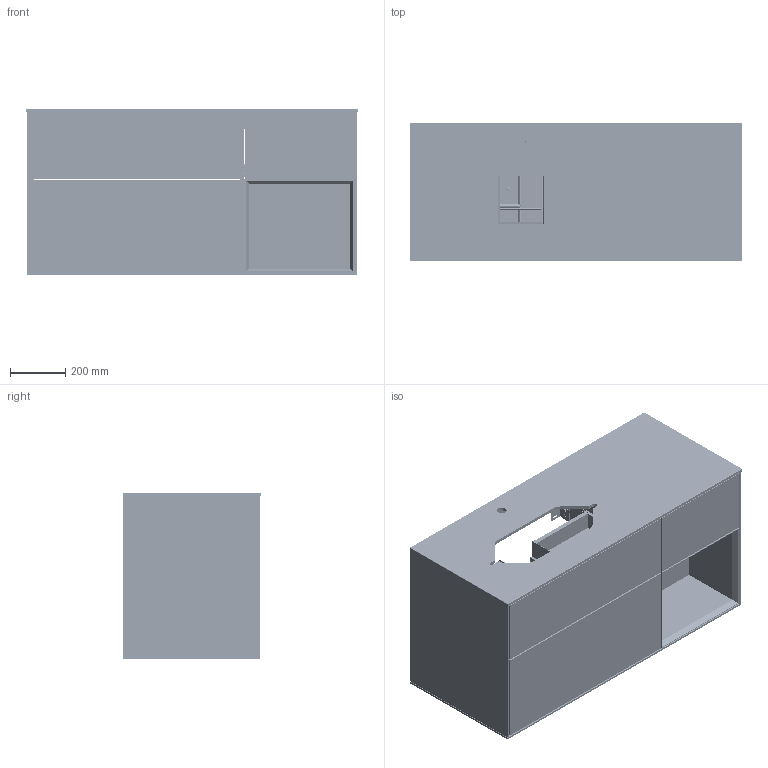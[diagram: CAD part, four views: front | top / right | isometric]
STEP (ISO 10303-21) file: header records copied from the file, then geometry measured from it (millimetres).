
FILE_DESCRIPTION((' '),'2;1');
FILE_NAME('M:\DWG\MÖBEL\3D-Zeichnungen Typen\Finion\STP\Finion_F28ZYYXX_3D.stp','2017-03-22T15:19:15',(' '),(' '),' ','ACIS',' ');
FILE_SCHEMA(('CONFIG_CONTROL_DESIGN'));
Length unit declared in the file: millimetre
Products named in the file (148): M:\DWG\MÖBEL\3D-Zeichnungen Typen\Finion\STP\Finion_F28ZYYXX_3D.stp; Körper1; Körper2; Körper3; Körper4; Körper5; Körper6; Körper7; Körper8; Körper9; Körper10; Körper11; Körper12; Körper13; Körper14; Körper15; Körper16; Körper17; Körper18; Körper19; Körper20; Körper21; Körper22; Körper23; Körper24; Körper25; Körper26; Körper27; Körper28; Körper29; Körper30; Körper31; Körper32; Körper33; Körper34; Körper35; Körper36; Körper37; Körper38; Körper39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
Assembly tree (147 placements, depth 2):
  M:\DWG\MÖBEL\3D-Zeichnungen Typen\Finion\STP\Finion_F28ZYYXX_3D.stp
    Körper1
    Körper2
    Körper3
    Körper4
    Körper5
    Körper6
    Körper7
    Körper8
    Körper9
    Körper10
    Körper11
    Körper12
    Körper13
    Körper14
    Körper15
    Körper16
    Körper17
    Körper18
    Körper19
    Körper20
    Körper21
    Körper22
    Körper23
    Körper24
    Körper25
    Körper26
    Körper27
    Körper28
    Körper29
    Körper30
    Körper31
    Körper32
    Körper33
    Körper34
    Körper35
    Körper36
    Körper37
    Körper38
    Körper39
    Körper40
    Körper41
    Körper42
    Körper43
    Körper44
    Körper45
    Körper46
    Körper47
    Körper48
    Körper49
    Körper50
    Körper51
    Körper52
    Körper53
    Körper54
    Körper55
    Körper56
    Körper57
    Körper58
    Körper59
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Bounding box: 1200 x 501 x 603 mm (x, y, z)
Volume: 68000186.3 mm3; surface area: 13286074.2 mm2
Topology: 182 solids, 182 shells, 10137 faces, 26924 edges, 17635 vertices
Faces by surface type: bspline 6270, plane 2212, cylinder 1427, cone 199, torus 19, sphere 10
Full cylindrical faces by diameter (mm): 2.086 x6, 2.5 x11, 3 x28, 3.2 x2, 3.5 x2, 4 x9, 5 x2, 6 x3, 7 x3, 8 x26, 8.02 x5, 10 x3, 12 x1, 30 x3, 35 x1
Entity records: 428617 total; most frequent: CARTESIAN_POINT 172203, ORIENTED_EDGE 52784, DIRECTION 41597, EDGE_CURVE 26392, VECTOR 17675, LINE 17675, VERTEX_POINT 17534, AXIS2_PLACEMENT_3D 11961
